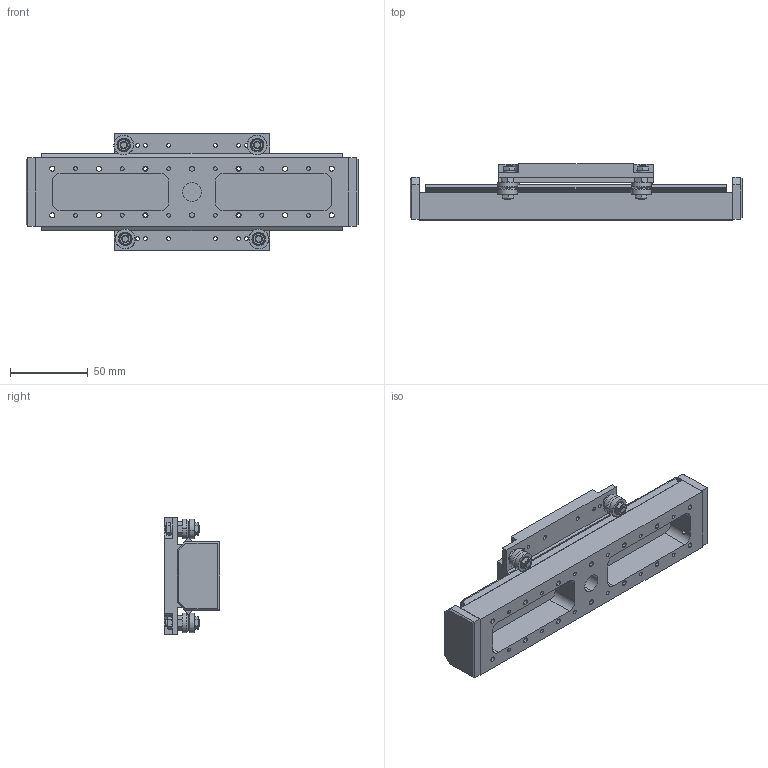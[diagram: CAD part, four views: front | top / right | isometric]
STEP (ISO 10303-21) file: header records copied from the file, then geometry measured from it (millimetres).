
FILE_DESCRIPTION (( 'STEP AP214' ), '1' );
FILE_NAME ('VSM23-P-100 - Simplified.STEP', '2024-06-21T09:21:12', ( '' ), ( '' ), 'SwSTEP 2.0', 'SolidWorks 2024', '' );
FILE_SCHEMA (( 'AUTOMOTIVE_DESIGN' ));
Length unit declared in the file: millimetre
Products named in the file (16): M4 Washer; Eccentric shaft_Simplified; Concentric shaft_Simplified; VSM23-P Passive Carriage Assy_Simplified; Ball; Bearing_Simplified; VSM23-P Passive Carriage_Simplified; P0301.040-A2_P0301.040-A2; Concentric Bearing Assy_Simplified; VSM23-P-100 Base plate_Simplified; VSM23-P-100 - Simplified; VSM23-P End Plate_Simplified; Outer_Simplified; Inner_Simplified; VSM23-X-100 V-slide_Simplified; Eccentric Bearing Assy_Simplified
Assembly tree (34 placements, depth 5):
  VSM23-P-100 - Simplified
    VSM23-P-100 Base plate_Simplified
    VSM23-X-100 V-slide_Simplified
    VSM23-P Passive Carriage Assy_Simplified
      VSM23-P Passive Carriage_Simplified
      Eccentric Bearing Assy_Simplified  x2
        Eccentric shaft_Simplified
        Bearing_Simplified
          Outer_Simplified
          Inner_Simplified
          Ball  x8
        P0301.040-A2_P0301.040-A2
      Concentric Bearing Assy_Simplified  x2
        Concentric shaft_Simplified
        Bearing_Simplified
          Outer_Simplified
          Inner_Simplified
          Ball  x8
        P0301.040-A2_P0301.040-A2
      M4 Washer  x2
      P0301.040-A2_P0301.040-A2  x4
    VSM23-P End Plate_Simplified  x2
Bounding box: 214 x 36 x 75 mm (x, y, z)
Volume: 223529.2 mm3; surface area: 87592.6 mm2
Topology: 99 solids, 99 shells, 949 faces, 2379 edges, 1534 vertices
Faces by surface type: cylinder 379, plane 242, sphere 128, cone 120, torus 80
Entity records: 13134 total; most frequent: CARTESIAN_POINT 2461, DIRECTION 2295, ORIENTED_EDGE 1974, EDGE_CURVE 987, AXIS2_PLACEMENT_3D 934, VERTEX_POINT 644, EDGE_LOOP 569, CIRCLE 512
